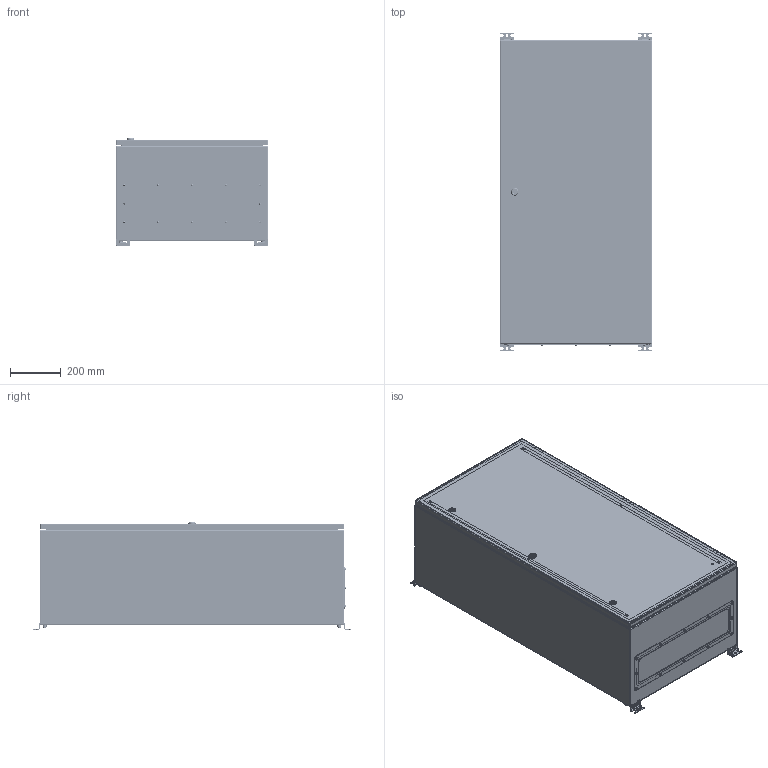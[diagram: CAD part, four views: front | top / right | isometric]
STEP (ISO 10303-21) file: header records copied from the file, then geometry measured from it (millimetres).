
FILE_DESCRIPTION(('STEP AP242'), '1');
FILE_NAME('400 ﾙﾌﾏ-1 (IP-56)', '', ('UNSPECIFIED'), ('UNSPECIFIED'), 'C3D Converter', 'C3D Toolkit', '');
FILE_SCHEMA(('AP242_MANAGED_MODEL_BASED_3D_ENGINEERING_MIM_LF { 1 0 10303 442 1 1 4 }'));
Length unit declared in the file: millimetre
Products named in the file (49): ЩМП-1-Л СБ; 410-Л; 420; 421; 411; 430-Л; 431-Л; 490; 491; 401; 440; 441; 402; 403
Assembly tree (158 placements, depth 4):
  ЩМП-1-Л СБ
    410-Л
      420
        421
        (unnamed)  x6
        (unnamed)
      411
      430-Л
        431-Л
        (unnamed)  x12
    490  x2
      491
      (unnamed)
      (unnamed)
      (unnamed)
      (unnamed)
      (unnamed)
    490  x2
      491
      (unnamed)
      (unnamed)
      (unnamed)
      (unnamed)
      (unnamed)
    401
    (unnamed)  x6
    (unnamed)  x6
    (unnamed)  x6
    (unnamed)  x3
      (unnamed)
      (unnamed)
      (unnamed)
    (unnamed)  x18
    440
      441
      (unnamed)
      (unnamed)  x6
      (unnamed)  x2
      (unnamed)  x3
    402  x2
    (unnamed)  x6
    (unnamed)  x6
    (unnamed)  x2
    (unnamed)
      (unnamed)
      (unnamed)
      (unnamed)
      (unnamed)
      (unnamed)
    (unnamed)
    (unnamed)  x2
      (unnamed)
      (unnamed)
      (unnamed)
    (unnamed)  x2
    (unnamed)  x2
    403
    (unnamed)  x12
    (unnamed)  x12
Bounding box: 600 x 1256 x 423.1 mm (x, y, z)
Volume: 6536713.3 mm3; surface area: 7900510.6 mm2
Topology: 170 solids, 172 shells, 3175 faces, 7364 edges, 4645 vertices
Faces by surface type: plane 1733, cylinder 953, cone 291, torus 76, bspline 70, sphere 52
Full cylindrical faces by diameter (mm): 0.5 x6, 2.6 x4, 3.5 x168, 4 x4, 4.134 x14, 4.2 x6, 4.85 x2, 4.917 x6, 5 x27, 5.5 x20, 5.8 x1, 6 x35, 6.38 x12, 6.4 x18, 6.5 x4, 6.647 x10, 7 x9, 7.3 x6, 7.5 x9, 7.74 x12, 7.9 x4, 8 x17, 8.3 x2, 8.4 x10, 8.5 x32, 8.7 x12, 9 x10, 10 x26, 10.4 x1, 10.5 x5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
Entity records: 83782 total; most frequent: CARTESIAN_POINT 43145, DIRECTION 6660, ORIENTED_EDGE 6152, EDGE_CURVE 3076, AXIS2_PLACEMENT_3D 2597, VERTEX_POINT 2100, EDGE_LOOP 2032, FACE_BOUND 1521
